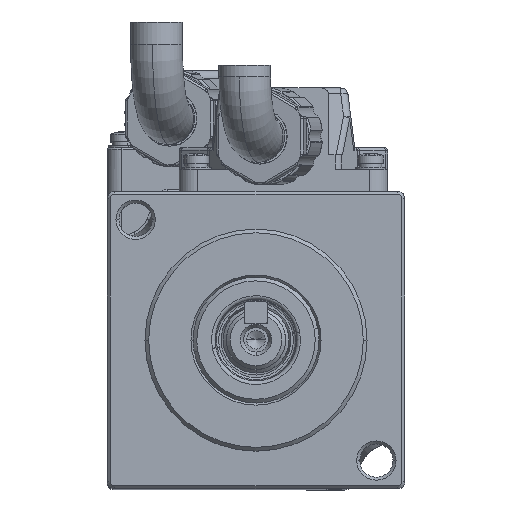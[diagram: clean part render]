
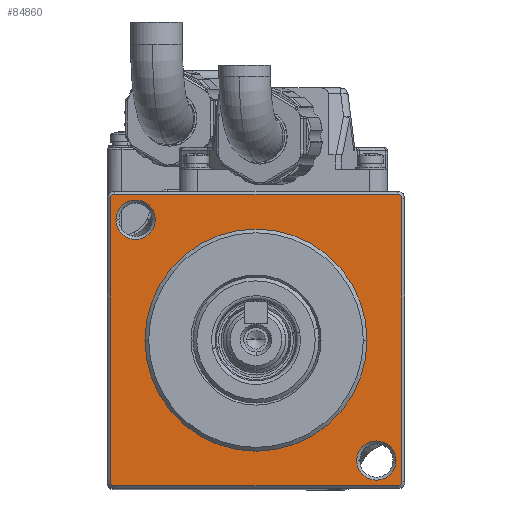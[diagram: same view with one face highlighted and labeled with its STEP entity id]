
A CAD part, top view. The second image highlights one B-rep face of the part: STEP entity #84860.
In plain terms, the highlighted planar face has unit normal (0, 0, 1).
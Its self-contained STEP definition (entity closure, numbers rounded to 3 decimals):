
#773 = VECTOR ( 'NONE', #71346, 1000. ) ;
#1648 = CARTESIAN_POINT ( 'NONE',  ( 19.1, 19.7, -57.337 ) ) ;
#2647 = VERTEX_POINT ( 'NONE', #81166 ) ;
#3993 = PLANE ( 'NONE',  #16588 ) ;
#4441 = CARTESIAN_POINT ( 'NONE',  ( 0., -15., -57.337 ) ) ;
#6141 = VERTEX_POINT ( 'NONE', #79855 ) ;
#6552 = DIRECTION ( 'NONE',  ( -1., 0., 0. ) ) ;
#7078 = CARTESIAN_POINT ( 'NONE',  ( 18.913, -16.263, -57.337 ) ) ;
#10901 = FACE_BOUND ( 'NONE', #16759, .T. ) ;
#11314 = EDGE_CURVE ( 'NONE', #30878, #76985, #59657, .T. ) ;
#11489 = DIRECTION ( 'NONE',  ( 0., -1., 0. ) ) ;
#12378 = LINE ( 'NONE', #40065, #25882 ) ;
#12866 = CIRCLE ( 'NONE', #36412, 2.65 ) ;
#13049 = CARTESIAN_POINT ( 'NONE',  ( 0., 19.7, -57.337 ) ) ;
#13066 = ORIENTED_EDGE ( 'NONE', *, *, #84973, .F. ) ;
#13388 = CIRCLE ( 'NONE', #51671, 0.6 ) ;
#13505 = ORIENTED_EDGE ( 'NONE', *, *, #82456, .F. ) ;
#15176 = CARTESIAN_POINT ( 'NONE',  ( -15., 0., -57.337 ) ) ;
#15323 = EDGE_CURVE ( 'NONE', #22648, #2647, #77387, .T. ) ;
#16039 = CIRCLE ( 'NONE', #88155, 2.65 ) ;
#16588 = AXIS2_PLACEMENT_3D ( 'NONE', #4441, #60665, #32101 ) ;
#16759 = EDGE_LOOP ( 'NONE', ( #20077, #23044 ) ) ;
#19037 = CARTESIAN_POINT ( 'NONE',  ( 0., -19.7, -57.337 ) ) ;
#19258 = VERTEX_POINT ( 'NONE', #89993 ) ;
#19794 = CARTESIAN_POINT ( 'NONE',  ( -16.263, 16.263, -57.337 ) ) ;
#20077 = ORIENTED_EDGE ( 'NONE', *, *, #73705, .F. ) ;
#20298 = CARTESIAN_POINT ( 'NONE',  ( 19.1, -19.1, -57.337 ) ) ;
#20527 = DIRECTION ( 'NONE',  ( 0., 0., -1. ) ) ;
#20533 = CARTESIAN_POINT ( 'NONE',  ( -16.263, 16.263, -57.337 ) ) ;
#20535 = EDGE_CURVE ( 'NONE', #2647, #80377, #29259, .T. ) ;
#21466 = ORIENTED_EDGE ( 'NONE', *, *, #52093, .F. ) ;
#21805 = CIRCLE ( 'NONE', #76257, 0.6 ) ;
#22108 = EDGE_LOOP ( 'NONE', ( #50314, #28309, #28723, #44087, #13505, #85897, #28813, #43670 ) ) ;
#22480 = VECTOR ( 'NONE', #87749, 1000. ) ;
#22648 = VERTEX_POINT ( 'NONE', #55685 ) ;
#23044 = ORIENTED_EDGE ( 'NONE', *, *, #82160, .F. ) ;
#24143 = CARTESIAN_POINT ( 'NONE',  ( -19.1, -19.7, -57.337 ) ) ;
#25294 = AXIS2_PLACEMENT_3D ( 'NONE', #20533, #69379, #56024 ) ;
#25493 = CIRCLE ( 'NONE', #25294, 2.65 ) ;
#25882 = VECTOR ( 'NONE', #11489, 1000. ) ;
#26738 = DIRECTION ( 'NONE',  ( -1., 0., 0. ) ) ;
#28309 = ORIENTED_EDGE ( 'NONE', *, *, #88473, .F. ) ;
#28481 = CARTESIAN_POINT ( 'NONE',  ( -19.7, -15.5, -57.337 ) ) ;
#28723 = ORIENTED_EDGE ( 'NONE', *, *, #20535, .F. ) ;
#28813 = ORIENTED_EDGE ( 'NONE', *, *, #43134, .F. ) ;
#29247 = CIRCLE ( 'NONE', #80810, 15. ) ;
#29259 = CIRCLE ( 'NONE', #55803, 0.6 ) ;
#30878 = VERTEX_POINT ( 'NONE', #51233 ) ;
#32101 = DIRECTION ( 'NONE',  ( -1., 0., 0. ) ) ;
#32555 = FACE_BOUND ( 'NONE', #56138, .T. ) ;
#32756 = CARTESIAN_POINT ( 'NONE',  ( 16.263, -16.263, -57.337 ) ) ;
#32768 = DIRECTION ( 'NONE',  ( -1., 0., 0. ) ) ;
#33056 = DIRECTION ( 'NONE',  ( 0., 0., 1. ) ) ;
#34091 = AXIS2_PLACEMENT_3D ( 'NONE', #42052, #42509, #6552 ) ;
#35466 = VERTEX_POINT ( 'NONE', #7078 ) ;
#35912 = CARTESIAN_POINT ( 'NONE',  ( 16.263, -16.263, -57.337 ) ) ;
#36412 = AXIS2_PLACEMENT_3D ( 'NONE', #32756, #75618, #26738 ) ;
#36529 = VERTEX_POINT ( 'NONE', #84826 ) ;
#39480 = FACE_OUTER_BOUND ( 'NONE', #22108, .T. ) ;
#40065 = CARTESIAN_POINT ( 'NONE',  ( 19.7, -15.5, -57.337 ) ) ;
#42024 = VECTOR ( 'NONE', #47180, 1000. ) ;
#42052 = CARTESIAN_POINT ( 'NONE',  ( 0., 0., -57.337 ) ) ;
#42509 = DIRECTION ( 'NONE',  ( 0., 0., 1. ) ) ;
#43134 = EDGE_CURVE ( 'NONE', #19258, #30878, #13388, .T. ) ;
#43670 = ORIENTED_EDGE ( 'NONE', *, *, #89133, .F. ) ;
#44087 = ORIENTED_EDGE ( 'NONE', *, *, #15323, .F. ) ;
#47180 = DIRECTION ( 'NONE',  ( 1., 0., 0. ) ) ;
#47337 = CARTESIAN_POINT ( 'NONE',  ( 0., 0., -57.337 ) ) ;
#47504 = DIRECTION ( 'NONE',  ( 0., 0., -1. ) ) ;
#47741 = DIRECTION ( 'NONE',  ( -1., 0., 0. ) ) ;
#49120 = VERTEX_POINT ( 'NONE', #60710 ) ;
#49140 = EDGE_CURVE ( 'NONE', #81347, #90131, #29247, .T. ) ;
#49208 = CARTESIAN_POINT ( 'NONE',  ( -19.1, -19.1, -57.337 ) ) ;
#50314 = ORIENTED_EDGE ( 'NONE', *, *, #90523, .F. ) ;
#51233 = CARTESIAN_POINT ( 'NONE',  ( 19.1, -19.7, -57.337 ) ) ;
#51671 = AXIS2_PLACEMENT_3D ( 'NONE', #20298, #47504, #32768 ) ;
#52093 = EDGE_CURVE ( 'NONE', #90131, #81347, #53249, .T. ) ;
#53249 = CIRCLE ( 'NONE', #34091, 15. ) ;
#55109 = CARTESIAN_POINT ( 'NONE',  ( -19.1, 19.1, -57.337 ) ) ;
#55357 = AXIS2_PLACEMENT_3D ( 'NONE', #61112, #82777, #62945 ) ;
#55377 = ORIENTED_EDGE ( 'NONE', *, *, #49140, .F. ) ;
#55471 = ORIENTED_EDGE ( 'NONE', *, *, #62669, .F. ) ;
#55543 = CARTESIAN_POINT ( 'NONE',  ( 15., 0., -57.337 ) ) ;
#55685 = CARTESIAN_POINT ( 'NONE',  ( -19.7, -19.1, -57.337 ) ) ;
#55752 = DIRECTION ( 'NONE',  ( 0., 0., 1. ) ) ;
#55803 = AXIS2_PLACEMENT_3D ( 'NONE', #55109, #20527, #47741 ) ;
#56024 = DIRECTION ( 'NONE',  ( -1., 0., 0. ) ) ;
#56138 = EDGE_LOOP ( 'NONE', ( #21466, #55377 ) ) ;
#56832 = VERTEX_POINT ( 'NONE', #68604 ) ;
#56988 = CIRCLE ( 'NONE', #55357, 0.6 ) ;
#59657 = LINE ( 'NONE', #19037, #22480 ) ;
#60665 = DIRECTION ( 'NONE',  ( 0., 0., 1. ) ) ;
#60710 = CARTESIAN_POINT ( 'NONE',  ( 13.613, -16.263, -57.337 ) ) ;
#61112 = CARTESIAN_POINT ( 'NONE',  ( 19.1, 19.1, -57.337 ) ) ;
#61153 = DIRECTION ( 'NONE',  ( -1., 0., 0. ) ) ;
#62669 = EDGE_CURVE ( 'NONE', #56832, #36529, #16039, .T. ) ;
#62945 = DIRECTION ( 'NONE',  ( -1., 0., 0. ) ) ;
#63026 = DIRECTION ( 'NONE',  ( -1., 0., 0. ) ) ;
#64012 = DIRECTION ( 'NONE',  ( 0., 0., 1. ) ) ;
#67570 = FACE_BOUND ( 'NONE', #72684, .T. ) ;
#68604 = CARTESIAN_POINT ( 'NONE',  ( -18.913, 16.263, -57.337 ) ) ;
#69272 = LINE ( 'NONE', #13049, #42024 ) ;
#69379 = DIRECTION ( 'NONE',  ( 0., 0., 1. ) ) ;
#69478 = DIRECTION ( 'NONE',  ( 0., 0., -1. ) ) ;
#70538 = VERTEX_POINT ( 'NONE', #1648 ) ;
#70978 = CIRCLE ( 'NONE', #79862, 2.65 ) ;
#71346 = DIRECTION ( 'NONE',  ( 0., 1., 0. ) ) ;
#72684 = EDGE_LOOP ( 'NONE', ( #55471, #13066 ) ) ;
#73705 = EDGE_CURVE ( 'NONE', #49120, #35466, #70978, .T. ) ;
#75618 = DIRECTION ( 'NONE',  ( 0., 0., 1. ) ) ;
#76257 = AXIS2_PLACEMENT_3D ( 'NONE', #49208, #69478, #63026 ) ;
#76985 = VERTEX_POINT ( 'NONE', #24143 ) ;
#77387 = LINE ( 'NONE', #28481, #773 ) ;
#77745 = CARTESIAN_POINT ( 'NONE',  ( -19.1, 19.7, -57.337 ) ) ;
#79855 = CARTESIAN_POINT ( 'NONE',  ( 19.7, 19.1, -57.337 ) ) ;
#79862 = AXIS2_PLACEMENT_3D ( 'NONE', #35912, #64012, #91231 ) ;
#80377 = VERTEX_POINT ( 'NONE', #77745 ) ;
#80810 = AXIS2_PLACEMENT_3D ( 'NONE', #47337, #33056, #61153 ) ;
#81166 = CARTESIAN_POINT ( 'NONE',  ( -19.7, 19.1, -57.337 ) ) ;
#81347 = VERTEX_POINT ( 'NONE', #55543 ) ;
#82160 = EDGE_CURVE ( 'NONE', #35466, #49120, #12866, .T. ) ;
#82456 = EDGE_CURVE ( 'NONE', #76985, #22648, #21805, .T. ) ;
#82777 = DIRECTION ( 'NONE',  ( 0., 0., -1. ) ) ;
#83862 = DIRECTION ( 'NONE',  ( -1., 0., 0. ) ) ;
#84826 = CARTESIAN_POINT ( 'NONE',  ( -13.613, 16.263, -57.337 ) ) ;
#84860 = ADVANCED_FACE ( 'NONE', ( #39480, #67570, #10901, #32555 ), #3993, .T. ) ;
#84973 = EDGE_CURVE ( 'NONE', #36529, #56832, #25493, .T. ) ;
#85897 = ORIENTED_EDGE ( 'NONE', *, *, #11314, .F. ) ;
#87749 = DIRECTION ( 'NONE',  ( -1., 0., 0. ) ) ;
#88155 = AXIS2_PLACEMENT_3D ( 'NONE', #19794, #55752, #83862 ) ;
#88473 = EDGE_CURVE ( 'NONE', #80377, #70538, #69272, .T. ) ;
#89133 = EDGE_CURVE ( 'NONE', #6141, #19258, #12378, .T. ) ;
#89993 = CARTESIAN_POINT ( 'NONE',  ( 19.7, -19.1, -57.337 ) ) ;
#90131 = VERTEX_POINT ( 'NONE', #15176 ) ;
#90523 = EDGE_CURVE ( 'NONE', #70538, #6141, #56988, .T. ) ;
#91231 = DIRECTION ( 'NONE',  ( -1., 0., 0. ) ) ;
